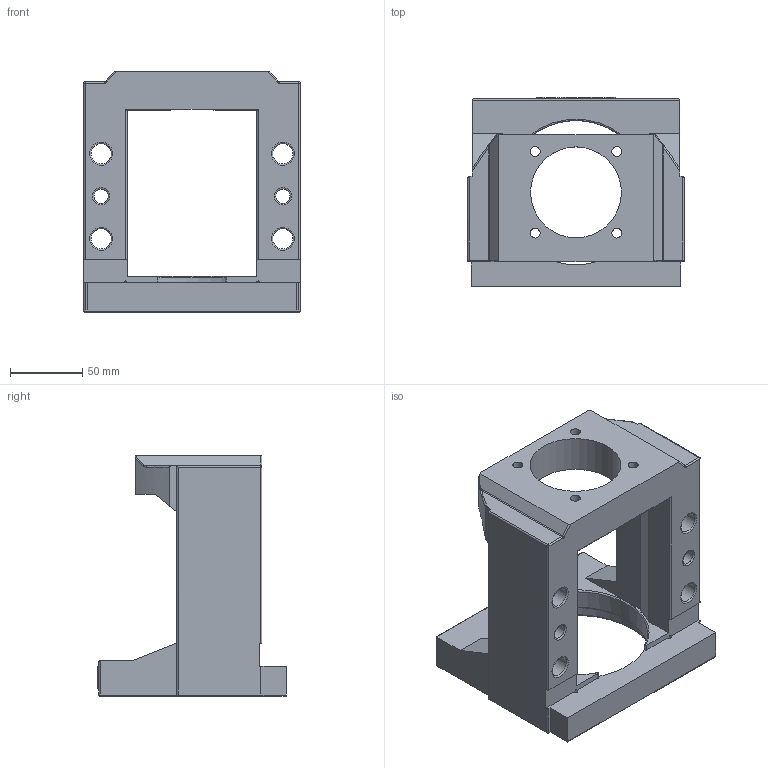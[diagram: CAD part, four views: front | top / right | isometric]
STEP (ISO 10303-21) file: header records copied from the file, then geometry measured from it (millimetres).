
FILE_DESCRIPTION(/* description */ (''),/* implementation_level */ '2;1');
FILE_NAME(/* name */ 'M116S-FK25-B.stp',/* time_stamp */ '2016-10-27T10:37:58+08:00',/* author */ (''),/* organization */ (''),/* preprocessor_version */ 'ST-DEVELOPER v15',/* originating_system */ 'SIEMENS PLM Software NX 8.5',/* authorisation */ '');
FILE_SCHEMA (('CONFIG_CONTROL_DESIGN'));
Length unit declared in the file: millimetre
Products named in the file (1): MBB25L-S
Bounding box: 150 x 131 x 167 mm (x, y, z)
Volume: 802665.9 mm3; surface area: 130104.6 mm2
Topology: 1 solids, 1 shells, 245 faces, 654 edges, 416 vertices
Faces by surface type: plane 111, cylinder 64, extrusion 41, torus 13, sphere 8, bspline 4, cone 4
Full cylindrical faces by diameter (mm): 6.8 x8, 10 x2, 14 x6, 20 x4, 63 x1, 100 x1, 110 x1
Entity records: 8029 total; most frequent: CARTESIAN_POINT 2470, ORIENTED_EDGE 1180, DIRECTION 937, EDGE_CURVE 590, VERTEX_POINT 399, EDGE_LOOP 323, AXIS2_PLACEMENT_3D 321, VECTOR 295
